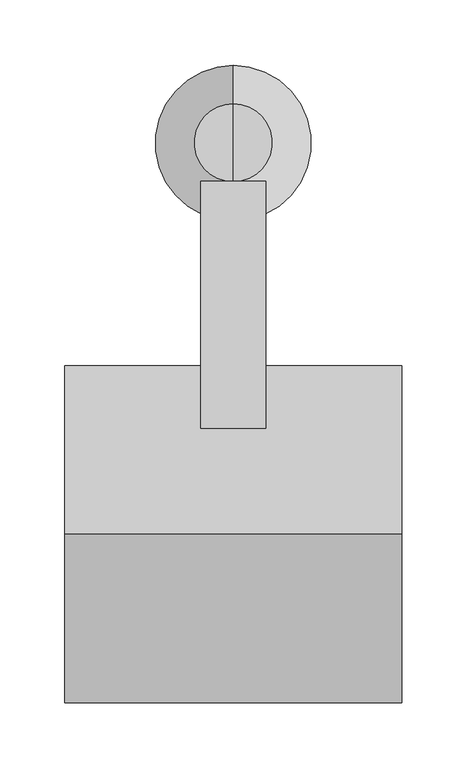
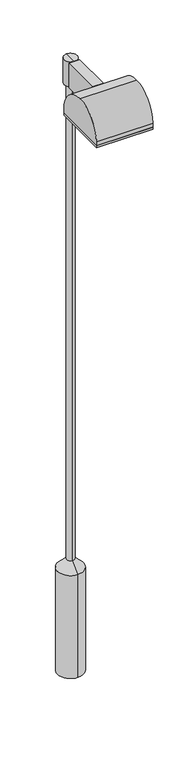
"""IFC4 building model written with IfcOpenShell, lengths in millimetres: light fixture geometry, Lampione (4) : Lampione (4)."""

from ifc_helpers import new_model, si_unit, point, frame, frame_2d, origin, place, context, project, spatial, polyline, circle_curve, trimmed, segment, composite_curve, outline, extrude, source, transform, mapped, element, save
from ifc_brep_helpers import plane_surface, cylinder_surface, revolved_surface, advanced_brep


def light_fixture_99749a2d(model_context):
    return source(origin(), model_context, "Body", "SolidModel", [
        extrude(outline(composite_curve([segment(trimmed(circle_curve(frame_2d((-302.0, 2875.0)), 130.0), [point((-172.0, 2875.0))], [point((-220.2897046, 2976.1109669))], True, "CARTESIAN"), True, "CONTINUOUS"), segment(polyline([(-220.2897046, 2976.1109669), (-30.0, 2976.1109669), (-30.0, 2856.1109669), (-172.0, 2856.1109669), (-172.0, 2875.0)]), True, "CONTINUOUS")], self_intersect=False)), frame((-25.0, 0.0, 0.0), z_axis=(1.0, 0.0, 0.0), x_axis=(0.0, 1.0, 0.0)), (0.0, 0.0, 1.0), 50.0),
        extrude(outline(polyline([(-130.0, -432.0), (-130.0, -172.0), (130.0, -172.0), (130.0, -432.0), (-130.0, -432.0)])), frame((0.0, 0.0, 2845.0), z_axis=(0.0, 0.0, 1.0), x_axis=(1.0, 0.0, 0.0)), (0.0, 0.0, 1.0), 10.0),
        extrude(outline(composite_curve([segment(trimmed(circle_curve(frame_2d((-302.0, 2875.0)), 130.0), [point((-432.0, 2875.0))], [point((-302.0, 3005.0))], False, "CARTESIAN"), True, "CONTINUOUS"), segment(trimmed(circle_curve(frame_2d((-302.0, 2875.0)), 130.0), [point((-302.0, 3005.0))], [point((-172.0, 2875.0))], False, "CARTESIAN"), True, "CONTINUOUS"), segment(polyline([(-172.0, 2875.0), (-172.0, 2855.0), (-432.0, 2855.0), (-432.0, 2875.0)]), True, "CONTINUOUS")], self_intersect=False)), frame((-130.0, 0.0, 0.0), z_axis=(1.0, 0.0, 0.0), x_axis=(0.0, 1.0, 0.0)), (0.0, 0.0, 1.0), 260.0),
        advanced_brep(
        [(0.0, 0.0, 2976.1109669), (0.0, -30.0, 2976.1109669), (0.0, 30.0, 2976.1109669), (0.0, 30.0, 2856.1109669), (0.0, -30.0, 2856.1109669), (0.0, 0.0, 2856.1109669)],
        [
            (0, 1),
            (1, 2, circle_curve(frame((0.0, 0.0, 2976.1109669), z_axis=(0.0, 0.0, 1.0), x_axis=(0.0, -1.0, 0.0)), 30.0)),
            (2, 0),
            (2, 1, circle_curve(frame((0.0, 0.0, 2976.1109669), z_axis=(0.0, 0.0, 1.0), x_axis=(0.0, -1.0, 0.0)), 30.0)),
            (3, 4, circle_curve(frame((0.0, 0.0, 2856.1109669), z_axis=(0.0, 0.0, -1.0), x_axis=(0.0, -1.0, 0.0)), 30.0)),
            (4, 5),
            (5, 3),
            (4, 3, circle_curve(frame((0.0, 0.0, 2856.1109669), z_axis=(0.0, 0.0, -1.0), x_axis=(0.0, -1.0, 0.0)), 30.0)),
            (1, 4),
            (3, 2),
        ],
        [
            plane_surface(frame((0.0, 0.0, 2976.1109669), z_axis=(0.0, 0.0, 1.0), x_axis=(0.0, -1.0, 0.0))),
            plane_surface(frame((0.0, 0.0, 2856.1109669), z_axis=(0.0, 0.0, -1.0), x_axis=(0.0, -1.0, 0.0))),
            cylinder_surface(frame((0.0, 0.0, 2976.1109669), z_axis=(0.0, 0.0, 1.0), x_axis=(0.0, -1.0, 0.0)), 30.0),
        ],
        [
            (0, [[1, 2, 3]]),
            (0, [[-3, 4, -1]]),
            (1, [[5, 6, 7]]),
            (1, [[8, -7, -6]]),
            (2, [[-2, 9, -5, 10]]),
            (2, [[-4, -10, -8, -9]]),
        ],
    ),
        advanced_brep(
        [(0.0, 0.0, 0.0), (0.0, 60.0, 0.0), (0.0, -60.0, 0.0), (0.0, -17.5735931, 2956.1109669), (0.0, 17.5735931, 2956.1109669), (0.0, 0.0, 2956.1109669), (0.0, -17.5735931, 542.4264069), (0.0, 17.5735931, 542.4264069), (0.0, -60.0, 500.0), (0.0, 60.0, 500.0)],
        [
            (0, 1),
            (1, 2, circle_curve(frame((0.0, 0.0, 0.0), z_axis=(0.0, 0.0, -1.0), x_axis=(0.0, 1.0, 0.0)), 60.0)),
            (2, 0),
            (2, 1, circle_curve(frame((0.0, 0.0, 0.0), z_axis=(0.0, 0.0, -1.0), x_axis=(0.0, 1.0, 0.0)), 60.0)),
            (3, 4, circle_curve(frame((0.0, 0.0, 2956.1109669), z_axis=(0.0, 0.0, 1.0), x_axis=(0.0, 1.0, 0.0)), 17.5735931)),
            (4, 5),
            (5, 3),
            (4, 3, circle_curve(frame((0.0, 0.0, 2956.1109669), z_axis=(0.0, 0.0, 1.0), x_axis=(0.0, 1.0, 0.0)), 17.5735931)),
            (6, 7, circle_curve(frame((0.0, 0.0, 542.4264069), z_axis=(0.0, 0.0, 1.0), x_axis=(0.0, 1.0, 0.0)), 17.5735931)),
            (7, 4),
            (3, 6),
            (7, 6, circle_curve(frame((0.0, 0.0, 542.4264069), z_axis=(0.0, 0.0, 1.0), x_axis=(0.0, 1.0, 0.0)), 17.5735931)),
            (8, 9, circle_curve(frame((0.0, 0.0, 500.0), z_axis=(0.0, 0.0, 1.0), x_axis=(0.0, 1.0, 0.0)), 60.0)),
            (9, 7),
            (6, 8),
            (9, 8, circle_curve(frame((0.0, 0.0, 500.0), z_axis=(0.0, 0.0, 1.0), x_axis=(0.0, 1.0, 0.0)), 60.0)),
            (1, 9),
            (8, 2),
        ],
        [
            plane_surface(frame((0.0, 0.0, 0.0), z_axis=(0.0, 0.0, -1.0), x_axis=(0.0, 1.0, 0.0))),
            plane_surface(frame((0.0, 0.0, 2956.1109669), z_axis=(0.0, 0.0, 1.0), x_axis=(0.0, 1.0, 0.0))),
            cylinder_surface(frame((0.0, 0.0, -271.6956879), z_axis=(0.0, 0.0, -1.0), x_axis=(0.0, 1.0, 0.0)), 17.5735931),
            revolved_surface(polyline([(0.0, 17.5735931, 542.4264069), (0.0, 60.0, 500.0)]), (0.0, 0.0, -271.6956879), (0.0, 0.0, -1.0)),
            cylinder_surface(frame((0.0, 0.0, -271.6956879), z_axis=(0.0, 0.0, -1.0), x_axis=(0.0, 1.0, 0.0)), 60.0),
        ],
        [
            (0, [[1, 2, 3]]),
            (0, [[-3, 4, -1]]),
            (1, [[5, 6, 7]]),
            (1, [[8, -7, -6]]),
            (2, [[9, 10, -5, 11]]),
            (2, [[12, -11, -8, -10]]),
            (3, [[13, 14, -9, 15]]),
            (3, [[16, -15, -12, -14]]),
            (4, [[-2, 17, -13, 18]]),
            (4, [[-4, -18, -16, -17]]),
        ],
    ),
    ])


if __name__ == "__main__":
    model = new_model("IFC4")
    model_context = context("Model", 3, world=origin())
    ifc_project = project(units=[si_unit("LENGTHUNIT", "METRE", prefix="MILLI")], contexts=[model_context])
    site = spatial("IfcSite", under=ifc_project)
    building = spatial("IfcBuilding", under=site)
    placement = place(None, origin())
    light_fixture_shape = light_fixture_99749a2d(model_context)
    element("IfcLightFixture", 1, ObjectType="Lampione (4) : Lampione (4)", at=placement, inside=building, context=model_context, shape_type="MappedRepresentation", body=[
        mapped(light_fixture_shape, transform((0.0, 0.0, 0.0), x_axis=(1.0, 0.0, 0.0), y_axis=(0.0, 1.0, 0.0), z_axis=(0.0, 0.0, 1.0))),
    ])
    save(model, "model.ifc")
